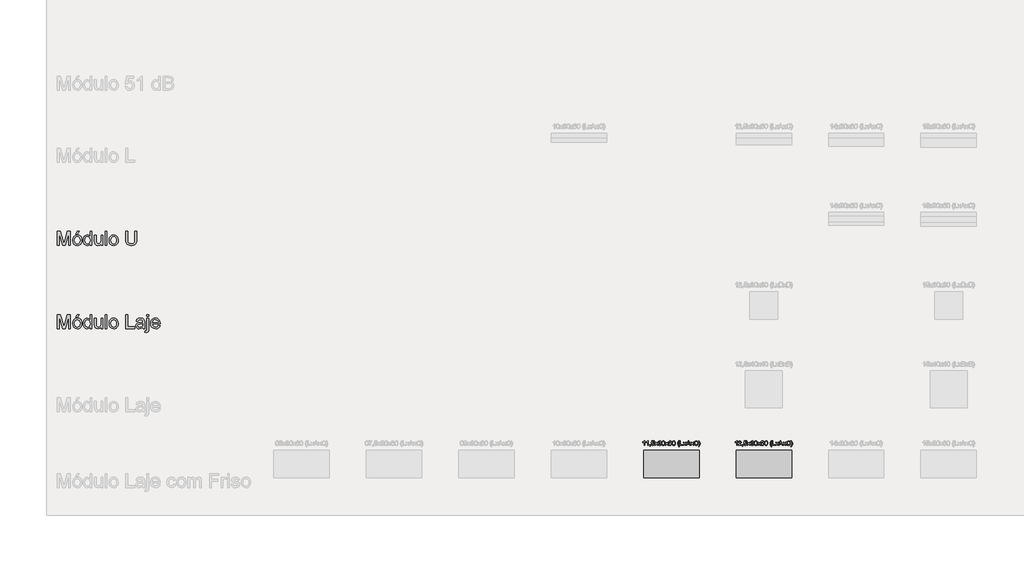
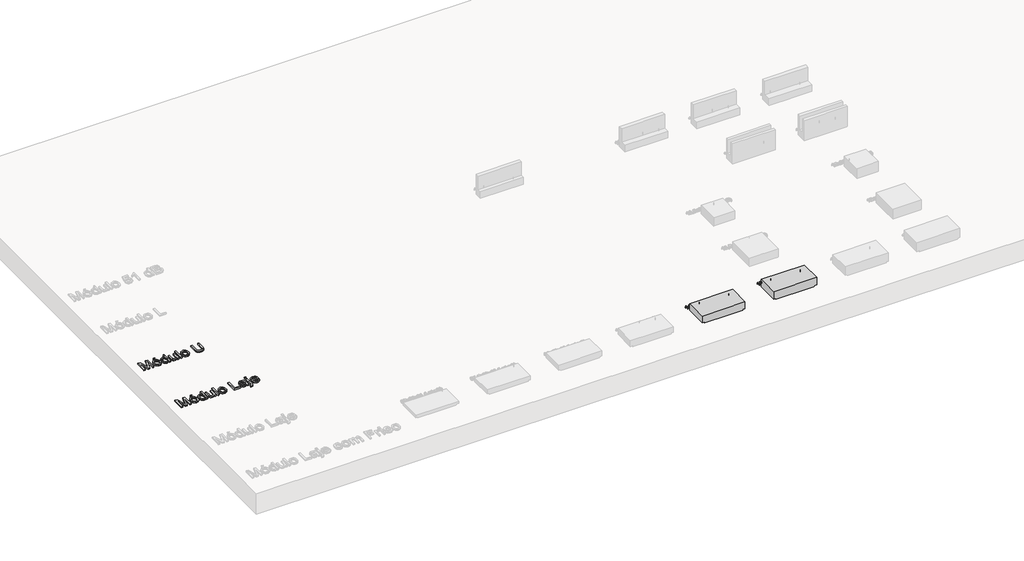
# One storey, part 4 of 26: 6 proxies.
"""IFC4 building model written with IfcOpenShell, lengths in millimetres."""

from ifc_helpers import new_model, si_unit, origin, origin_with_axes, place, context, project, spatial, polyline, outline, extrude, transform, mapped, element, save
from components import generic_models_67b5db59, generic_models_4925fccc

model = new_model("IFC4")

# Units and contexts
model_context = context("Model", 3, world=origin())
ifc_project = project(units=[si_unit("LENGTHUNIT", "METRE", prefix="MILLI")], contexts=[model_context])

# Site, building, storey
site = spatial("IfcSite", under=ifc_project)
building = spatial("IfcBuilding", under=site)
storey = spatial("IfcBuildingStorey", under=building, Name="Catálogo Celucon", Elevation=0.0)

# Proxies
placement = place(None, origin())
element("IfcBuildingElementProxy", 1, Name="Legenda Tabela de Módulos", ObjectType="Legenda Tabela de Módulos", at=placement, inside=storey, context=model_context, shape_type="SweptSolid", body=[
    extrude(outline(polyline([(-16139.397214, -2434.6760122), (-16139.397214, -2283.9915469), (-16106.9868102, -2283.9915469), (-16076.158299, -2390.199079), (-16069.9410933, -2412.3823633), (-16063.2088528, -2388.359669), (-16032.8953764, -2283.9915469), (-16000.4849726, -2283.9915469), (-16000.4849726, -2434.6760122), (-16019.3205308, -2434.6760122), (-16019.3205308, -2302.8271051), (-16057.1755881, -2434.6760122), (-16082.7065985, -2434.6760122), (-16120.5616558, -2302.8271051), (-16120.5616558, -2434.6760122), (-16139.397214, -2434.6760122)])), origin_with_axes(), (0.0, 0.0, 1.0), 20.0),
    extrude(outline(polyline([(-15974.5860802, -2379.3465601), (-15970.5117871, -2352.6659184), (-15958.2889078, -2333.9131337), (-15943.1873519, -2324.7252809), (-15925.1059518, -2321.6626633), (-15905.318499, -2325.392067), (-15889.5133688, -2336.5802782), (-15879.1528921, -2354.34438), (-15875.6993999, -2377.8014557), (-15877.2261101, -2396.8301519), (-15881.806241, -2411.3155055), (-15889.3064352, -2422.1634258), (-15899.5933354, -2430.2798223), (-15911.8116162, -2435.3427983), (-15925.1059518, -2437.0304569), (-15945.1325279, -2433.3148488), (-15960.919264, -2422.1680243), (-15971.1693761, -2404.031442), (-15974.5860802, -2379.3465601)]), holes=[polyline([(-15955.750522, -2379.3097719), (-15953.5708212, -2396.3565038), (-15947.0317187, -2408.5012082), (-15937.1908754, -2415.7714761), (-15925.1059518, -2418.1948988), (-15913.0762106, -2415.7576806), (-15903.2537613, -2408.4460259), (-15896.7146588, -2396.1403732), (-15894.534958, -2378.7211607), (-15896.7284544, -2362.1710694), (-15903.3089436, -2350.191912), (-15913.1451884, -2342.921644), (-15925.1059518, -2340.4982214), (-15937.1908754, -2342.912447), (-15947.0317187, -2350.1551238), (-15953.5708212, -2362.272237), (-15955.750522, -2379.3097719)])]), origin_with_axes(), (0.0, 0.0, 1.0), 20.0),
    extrude(outline(polyline([(-15939.2694086, -2312.2448842), (-15925.14274, -2283.9915469), (-15901.5982923, -2283.9915469), (-15925.14274, -2312.2448842), (-15939.2694086, -2312.2448842)])), origin_with_axes(), (0.0, 0.0, 1.0), 20.0),
    extrude(outline(polyline([(-15786.2304986, -2434.6760122), (-15786.2304986, -2416.9073118), (-15798.6925012, -2431.9996707), (-15815.9185756, -2437.0304569), (-15828.0954697, -2435.2094411), (-15839.2422941, -2429.7463934), (-15848.6784673, -2421.0229916), (-15855.7234075, -2409.4209132), (-15860.1104003, -2395.4092077), (-15861.5727312, -2379.4569247), (-15856.18326, -2349.4745421), (-15849.4510195, -2337.5827566), (-15840.0332404, -2328.8363622), (-15828.6426942, -2323.456088), (-15815.992152, -2321.6626633), (-15798.6281219, -2326.7946171), (-15786.2304986, -2340.1303394), (-15786.2304986, -2283.9915469), (-15767.3949405, -2283.9915469), (-15767.3949405, -2434.6760122), (-15786.2304986, -2434.6760122)]), holes=[polyline([(-15842.7371731, -2379.3833483), (-15840.6126546, -2396.4208832), (-15834.239099, -2408.5379964), (-15824.9776698, -2415.7806732), (-15814.1895303, -2418.1948988), (-15803.4059893, -2415.8910378), (-15794.3790848, -2408.9794548), (-15788.2676452, -2397.3313911), (-15786.2304986, -2380.8180881), (-15788.3044334, -2362.7642792), (-15794.5262376, -2350.2470943), (-15803.7830683, -2342.9354396), (-15814.9620825, -2340.4982214), (-15825.8605866, -2342.8388706), (-15834.790922, -2349.8608182), (-15840.7506103, -2361.9227491), (-15842.7371731, -2379.3833483)])]), origin_with_axes(), (0.0, 0.0, 1.0), 20.0),
    extrude(outline(polyline([(-15668.5082602, -2434.6760122), (-15668.5082602, -2415.656513), (-15683.2603282, -2431.686971), (-15702.5005565, -2437.0304569), (-15720.2140746, -2433.2780606), (-15732.4277568, -2423.8602815), (-15738.0379573, -2409.9911303), (-15739.1416032, -2392.4799473), (-15739.1416032, -2324.017108), (-15720.3060451, -2324.017108), (-15720.3060451, -2383.6139912), (-15719.1656109, -2402.8174314), (-15711.7160005, -2414.0930145), (-15697.6813024, -2418.1948988), (-15681.9543471, -2414.001044), (-15671.5616807, -2402.5783081), (-15668.5082602, -2381.5906403), (-15668.5082602, -2324.017108), (-15649.672702, -2324.017108), (-15649.672702, -2434.6760122), (-15668.5082602, -2434.6760122)])), origin_with_axes(), (0.0, 0.0, 1.0), 20.0),
    extrude(outline(polyline([(-15623.7738096, -2434.6760122), (-15623.7738096, -2283.9915469), (-15604.9382514, -2283.9915469), (-15604.9382514, -2434.6760122), (-15623.7738096, -2434.6760122)])), origin_with_axes(), (0.0, 0.0, 1.0), 20.0),
    extrude(outline(polyline([(-15581.3938037, -2379.3465601), (-15577.3195106, -2352.6659184), (-15565.0966313, -2333.9131337), (-15549.9950754, -2324.7252809), (-15531.9136754, -2321.6626633), (-15512.1262226, -2325.392067), (-15496.3210923, -2336.5802782), (-15485.9606156, -2354.34438), (-15482.5071234, -2377.8014557), (-15484.0338337, -2396.8301519), (-15488.6139645, -2411.3155055), (-15496.1141587, -2422.1634258), (-15506.401059, -2430.2798223), (-15518.6193398, -2435.3427983), (-15531.9136754, -2437.0304569), (-15551.9402515, -2433.3148488), (-15567.7269876, -2422.1680243), (-15577.9770997, -2404.031442), (-15581.3938037, -2379.3465601)]), holes=[polyline([(-15562.5582456, -2379.3097719), (-15560.3785447, -2396.3565038), (-15553.8394423, -2408.5012082), (-15543.9985989, -2415.7714761), (-15531.9136754, -2418.1948988), (-15519.8839341, -2415.7576806), (-15510.0614849, -2408.4460259), (-15503.5223824, -2396.1403732), (-15501.3426816, -2378.7211607), (-15503.536178, -2362.1710694), (-15510.1166672, -2350.191912), (-15519.952912, -2342.921644), (-15531.9136754, -2340.4982214), (-15543.9985989, -2342.912447), (-15553.8394423, -2350.1551238), (-15560.3785447, -2362.272237), (-15562.5582456, -2379.3097719)])]), origin_with_axes(), (0.0, 0.0, 1.0), 20.0),
    extrude(outline(polyline([(-15301.2148762, -2283.9915469), (-15282.379318, -2283.9915469), (-15282.379318, -2370.9220624), (-15283.657708, -2391.2797323), (-15287.4928778, -2406.9561038), (-15294.6573796, -2419.0502244), (-15305.9237657, -2428.6611415), (-15321.3196272, -2434.9381281), (-15340.8725553, -2437.0304569), (-15359.9978205, -2435.2094411), (-15375.2879159, -2429.7463934), (-15386.7474401, -2420.8298536), (-15394.3809915, -2408.648361), (-15398.6714152, -2392.3098019), (-15400.1015565, -2370.9220624), (-15400.1015565, -2283.9915469), (-15381.2659983, -2283.9915469), (-15381.2659983, -2370.2598748), (-15377.5503902, -2398.9730645), (-15372.5012098, -2407.1354463), (-15364.784885, -2413.1917037), (-15342.6383888, -2418.1948988), (-15323.4809339, -2415.7208924), (-15310.7430199, -2408.2988731), (-15303.5969121, -2393.8411107), (-15301.2148762, -2370.2598748), (-15301.2148762, -2283.9915469)])), origin_with_axes(), (0.0, 0.0, 1.0), 20.0),
])
element("IfcBuildingElementProxy", 2, Name="Legenda Tabela de Módulos", ObjectType="Legenda Tabela de Módulos", at=placement, inside=storey, context=model_context, shape_type="SweptSolid", body=[
    extrude(outline(polyline([(-16139.397214, -3334.6760122), (-16139.397214, -3183.9915469), (-16106.9868102, -3183.9915469), (-16076.158299, -3290.199079), (-16069.9410933, -3312.3823633), (-16063.2088528, -3288.359669), (-16032.8953764, -3183.9915469), (-16000.4849726, -3183.9915469), (-16000.4849726, -3334.6760122), (-16019.3205308, -3334.6760122), (-16019.3205308, -3202.8271051), (-16057.1755881, -3334.6760122), (-16082.7065985, -3334.6760122), (-16120.5616558, -3202.8271051), (-16120.5616558, -3334.6760122), (-16139.397214, -3334.6760122)])), origin_with_axes(), (0.0, 0.0, 1.0), 20.0),
    extrude(outline(polyline([(-15974.5860802, -3279.3465601), (-15970.5117871, -3252.6659184), (-15958.2889078, -3233.9131337), (-15943.1873519, -3224.7252809), (-15925.1059518, -3221.6626633), (-15905.318499, -3225.392067), (-15889.5133688, -3236.5802782), (-15879.1528921, -3254.34438), (-15875.6993999, -3277.8014557), (-15877.2261101, -3296.8301519), (-15881.806241, -3311.3155055), (-15889.3064352, -3322.1634258), (-15899.5933354, -3330.2798223), (-15911.8116162, -3335.3427983), (-15925.1059518, -3337.0304569), (-15945.1325279, -3333.3148488), (-15960.919264, -3322.1680243), (-15971.1693761, -3304.031442), (-15974.5860802, -3279.3465601)]), holes=[polyline([(-15955.750522, -3279.3097719), (-15953.5708212, -3296.3565038), (-15947.0317187, -3308.5012082), (-15937.1908754, -3315.7714761), (-15925.1059518, -3318.1948988), (-15913.0762106, -3315.7576806), (-15903.2537613, -3308.4460259), (-15896.7146588, -3296.1403732), (-15894.534958, -3278.7211607), (-15896.7284544, -3262.1710694), (-15903.3089436, -3250.191912), (-15913.1451884, -3242.921644), (-15925.1059518, -3240.4982214), (-15937.1908754, -3242.912447), (-15947.0317187, -3250.1551238), (-15953.5708212, -3262.272237), (-15955.750522, -3279.3097719)])]), origin_with_axes(), (0.0, 0.0, 1.0), 20.0),
    extrude(outline(polyline([(-15939.2694086, -3212.2448842), (-15925.14274, -3183.9915469), (-15901.5982923, -3183.9915469), (-15925.14274, -3212.2448842), (-15939.2694086, -3212.2448842)])), origin_with_axes(), (0.0, 0.0, 1.0), 20.0),
    extrude(outline(polyline([(-15786.2304986, -3334.6760122), (-15786.2304986, -3316.9073118), (-15798.6925012, -3331.9996707), (-15815.9185756, -3337.0304569), (-15828.0954697, -3335.2094411), (-15839.2422941, -3329.7463934), (-15848.6784673, -3321.0229916), (-15855.7234075, -3309.4209132), (-15860.1104003, -3295.4092077), (-15861.5727312, -3279.4569247), (-15856.18326, -3249.4745421), (-15849.4510195, -3237.5827566), (-15840.0332404, -3228.8363622), (-15828.6426942, -3223.456088), (-15815.992152, -3221.6626633), (-15798.6281219, -3226.7946171), (-15786.2304986, -3240.1303394), (-15786.2304986, -3183.9915469), (-15767.3949405, -3183.9915469), (-15767.3949405, -3334.6760122), (-15786.2304986, -3334.6760122)]), holes=[polyline([(-15842.7371731, -3279.3833483), (-15840.6126546, -3296.4208832), (-15834.239099, -3308.5379964), (-15824.9776698, -3315.7806732), (-15814.1895303, -3318.1948988), (-15803.4059893, -3315.8910378), (-15794.3790848, -3308.9794548), (-15788.2676452, -3297.3313911), (-15786.2304986, -3280.8180881), (-15788.3044334, -3262.7642792), (-15794.5262376, -3250.2470943), (-15803.7830683, -3242.9354396), (-15814.9620825, -3240.4982214), (-15825.8605866, -3242.8388706), (-15834.790922, -3249.8608182), (-15840.7506103, -3261.9227491), (-15842.7371731, -3279.3833483)])]), origin_with_axes(), (0.0, 0.0, 1.0), 20.0),
    extrude(outline(polyline([(-15668.5082602, -3334.6760122), (-15668.5082602, -3315.656513), (-15683.2603282, -3331.686971), (-15702.5005565, -3337.0304569), (-15720.2140746, -3333.2780606), (-15732.4277568, -3323.8602815), (-15738.0379573, -3309.9911303), (-15739.1416032, -3292.4799473), (-15739.1416032, -3224.017108), (-15720.3060451, -3224.017108), (-15720.3060451, -3283.6139912), (-15719.1656109, -3302.8174314), (-15711.7160005, -3314.0930145), (-15697.6813024, -3318.1948988), (-15681.9543471, -3314.001044), (-15671.5616807, -3302.5783081), (-15668.5082602, -3281.5906403), (-15668.5082602, -3224.017108), (-15649.672702, -3224.017108), (-15649.672702, -3334.6760122), (-15668.5082602, -3334.6760122)])), origin_with_axes(), (0.0, 0.0, 1.0), 20.0),
    extrude(outline(polyline([(-15623.7738096, -3334.6760122), (-15623.7738096, -3183.9915469), (-15604.9382514, -3183.9915469), (-15604.9382514, -3334.6760122), (-15623.7738096, -3334.6760122)])), origin_with_axes(), (0.0, 0.0, 1.0), 20.0),
    extrude(outline(polyline([(-15581.3938037, -3279.3465601), (-15577.3195106, -3252.6659184), (-15565.0966313, -3233.9131337), (-15549.9950754, -3224.7252809), (-15531.9136754, -3221.6626633), (-15512.1262226, -3225.392067), (-15496.3210923, -3236.5802782), (-15485.9606156, -3254.34438), (-15482.5071234, -3277.8014557), (-15484.0338337, -3296.8301519), (-15488.6139645, -3311.3155055), (-15496.1141587, -3322.1634258), (-15506.401059, -3330.2798223), (-15518.6193398, -3335.3427983), (-15531.9136754, -3337.0304569), (-15551.9402515, -3333.3148488), (-15567.7269876, -3322.1680243), (-15577.9770997, -3304.031442), (-15581.3938037, -3279.3465601)]), holes=[polyline([(-15562.5582456, -3279.3097719), (-15560.3785447, -3296.3565038), (-15553.8394423, -3308.5012082), (-15543.9985989, -3315.7714761), (-15531.9136754, -3318.1948988), (-15519.8839341, -3315.7576806), (-15510.0614849, -3308.4460259), (-15503.5223824, -3296.1403732), (-15501.3426816, -3278.7211607), (-15503.536178, -3262.1710694), (-15510.1166672, -3250.191912), (-15519.952912, -3242.921644), (-15531.9136754, -3240.4982214), (-15543.9985989, -3242.912447), (-15553.8394423, -3250.1551238), (-15560.3785447, -3262.272237), (-15562.5582456, -3279.3097719)])]), origin_with_axes(), (0.0, 0.0, 1.0), 20.0),
    extrude(outline(polyline([(-15400.1015565, -3334.6760122), (-15400.1015565, -3183.9915469), (-15381.2659983, -3183.9915469), (-15381.2659983, -3315.840454), (-15305.9237657, -3315.840454), (-15305.9237657, -3334.6760122), (-15400.1015565, -3334.6760122)])), origin_with_axes(), (0.0, 0.0, 1.0), 20.0),
    extrude(outline(polyline([(-15171.7204139, -3202.8271051), (-15171.7204139, -3183.9915469), (-15152.8848557, -3183.9915469), (-15152.8848557, -3202.8271051), (-15171.7204139, -3202.8271051)])), origin_with_axes(), (0.0, 0.0, 1.0), 20.0),
    extrude(outline(polyline([(-15195.4488026, -3377.1295944), (-15191.475677, -3359.2137412), (-15182.8304501, -3360.5749046), (-15174.4611348, -3356.8409024), (-15171.7204139, -3338.1708911), (-15171.7204139, -3224.017108), (-15152.8848557, -3224.017108), (-15152.8848557, -3340.5989123), (-15154.218428, -3357.8893661), (-15158.2191447, -3368.9994023), (-15167.2322535, -3376.8076977), (-15180.7335228, -3379.4104628), (-15195.4488026, -3377.1295944)])), origin_with_axes(), (0.0, 0.0, 1.0), 20.0),
    extrude(outline(polyline([(-15216.4548645, -3320.5493436), (-15234.7202056, -3333.3148488), (-15254.898533, -3337.0304569), (-15270.6392839, -3334.7955738), (-15282.2505593, -3328.0909245), (-15289.4104627, -3317.9097902), (-15291.7970971, -3305.2454526), (-15288.1918536, -3290.3462318), (-15278.7188922, -3279.5305011), (-15265.5303227, -3273.3500836), (-15249.2331503, -3270.5173922), (-15216.5652291, -3264.0426691), (-15216.4548645, -3259.8488144), (-15217.7516485, -3251.4427108), (-15221.6420006, -3245.9428749), (-15230.3424098, -3241.8593848), (-15242.4641216, -3240.4982214), (-15261.5204089, -3244.1218591), (-15270.6070942, -3256.9793348), (-15289.4426523, -3254.62489), (-15281.2940662, -3236.2307903), (-15264.8865292, -3225.4518478), (-15240.0361004, -3221.6626633), (-15217.2090226, -3225.0103894), (-15204.3147587, -3233.416493), (-15198.5390113, -3246.2003923), (-15197.6193063, -3262.6815057), (-15197.6193063, -3286.1155888), (-15196.6628132, -3318.8386923), (-15192.9104168, -3334.6760122), (-15211.745975, -3334.6760122), (-15216.4548645, -3320.5493436)]), holes=[polyline([(-15216.4548645, -3282.8782272), (-15246.8419173, -3288.6539746), (-15263.0471192, -3291.7073951), (-15270.386365, -3296.6738021), (-15272.961539, -3303.9210774), (-15267.3513385, -3314.1114086), (-15250.8886193, -3318.1948988), (-15231.8323319, -3313.6883443), (-15219.5450733, -3302.7806432), (-15216.5652291, -3288.2125162), (-15216.4548645, -3282.8782272)])]), origin_with_axes(), (0.0, 0.0, 1.0), 20.0),
    extrude(outline(polyline([(-15047.1555703, -3301.7137854), (-15028.6878942, -3304.0682302), (-15035.3419598, -3317.9833666), (-15045.9599538, -3328.3852301), (-15060.3027531, -3334.8691502), (-15078.1312343, -3337.0304569), (-15100.2317452, -3333.3010532), (-15117.2370904, -3322.112842), (-15128.0804122, -3304.1923903), (-15131.6948528, -3280.2662651), (-15128.043624, -3255.535398), (-15117.0899376, -3237.0401307), (-15100.3145186, -3225.5070301), (-15079.1980921, -3221.6626633), (-15058.7392546, -3225.4978331), (-15042.3914985, -3237.0033425), (-15031.6723369, -3255.4618216), (-15028.099283, -3280.1559005), (-15028.2096476, -3285.232672), (-15112.8592947, -3285.232672), (-15109.5989405, -3299.3317495), (-15102.0251699, -3309.6968247), (-15091.0944761, -3316.0703803), (-15077.7633523, -3318.1948988), (-15059.2956762, -3314.2585614), (-15047.1555703, -3301.7137854)]), holes=[polyline([(-15112.8592947, -3266.3971139), (-15046.9348411, -3266.3971139), (-15049.4824239, -3256.4459059), (-15054.476422, -3249.3273893), (-15065.4576996, -3242.7055134), (-15079.2716685, -3240.4982214), (-15091.9681959, -3242.2594565), (-15102.4666283, -3247.5431616), (-15109.7644874, -3255.7791198), (-15112.8592947, -3266.3971139)])]), origin_with_axes(), (0.0, 0.0, 1.0), 20.0),
])
element("IfcBuildingElementProxy", 3, Name="Dimensões", ObjectType="Dimensões", at=placement, inside=storey, context=model_context, shape_type="SweptSolid", body=[
    extrude(outline(polyline([(-9787.0646748, -4599.6760122), (-9793.3431942, -4599.6760122), (-9793.3431942, -4560.5333679), (-9799.2906197, -4564.7701422), (-9805.9002329, -4567.9400587), (-9805.9002329, -4562.0048959), (-9796.6970517, -4556.1310467), (-9791.1113767, -4549.4478571), (-9787.0646748, -4549.4478571), (-9787.0646748, -4599.6760122)])), origin_with_axes(), (0.0, 0.0, 1.0), 20.0),
    extrude(outline(polyline([(-9748.6087435, -4599.6760122), (-9754.8872629, -4599.6760122), (-9754.8872629, -4560.5333679), (-9760.8346885, -4564.7701422), (-9767.4443017, -4567.9400587), (-9767.4443017, -4562.0048959), (-9758.2411204, -4556.1310467), (-9752.6554455, -4549.4478571), (-9748.6087435, -4549.4478571), (-9748.6087435, -4599.6760122)])), origin_with_axes(), (0.0, 0.0, 1.0), 20.0),
    extrude(outline(polyline([(-9730.5580003, -4599.6760122), (-9730.5580003, -4593.3974928), (-9724.2794809, -4593.3974928), (-9724.2794809, -4599.6760122), (-9725.4076524, -4606.095553), (-9728.9883705, -4609.8786062), (-9730.5580003, -4607.5241614), (-9728.2526065, -4604.8140974), (-9727.4310034, -4599.6760122), (-9730.5580003, -4599.6760122)])), origin_with_axes(), (0.0, 0.0, 1.0), 20.0),
    extrude(outline(polyline([(-9714.0768869, -4586.3341585), (-9707.7983675, -4585.5493436), (-9704.6345824, -4592.0179353), (-9698.0740201, -4594.1823077), (-9690.2013454, -4591.1718067), (-9687.3931795, -4583.1826361), (-9690.0235358, -4575.7268943), (-9697.9759183, -4572.9923048), (-9703.4880168, -4574.083688), (-9707.0135526, -4576.9163794), (-9713.292072, -4576.1315645), (-9707.7983675, -4550.232672), (-9683.4691049, -4550.232672), (-9683.4691049, -4556.5111914), (-9702.721596, -4556.5111914), (-9705.4071346, -4570.3435544), (-9696.2223474, -4566.7137854), (-9685.4863245, -4571.2142085), (-9681.1146602, -4582.7902286), (-9685.0509975, -4594.4398251), (-9690.7041175, -4598.9555766), (-9698.0985456, -4600.4608271), (-9709.177925, -4596.5919348), (-9714.0768869, -4586.3341585)])), origin_with_axes(), (0.0, 0.0, 1.0), 20.0),
    extrude(outline(polyline([(-9677.9754005, -4599.6760122), (-9664.5599704, -4581.1347596), (-9677.1905855, -4562.7897108), (-9669.6367419, -4562.7897108), (-9663.5421635, -4571.6188787), (-9660.6972094, -4575.7882079), (-9658.2324001, -4572.3791681), (-9651.2916931, -4562.7897108), (-9643.7378494, -4562.7897108), (-9657.0061267, -4581.1347596), (-9644.2283588, -4599.6760122), (-9651.7822024, -4599.6760122), (-9659.4709361, -4588.5291877), (-9660.8811504, -4586.493574), (-9670.4215568, -4599.6760122), (-9677.9754005, -4599.6760122)])), origin_with_axes(), (0.0, 0.0, 1.0), 20.0),
    extrude(outline(polyline([(-9640.3042842, -4586.3341585), (-9634.0257648, -4585.5493436), (-9630.5615427, -4592.1589567), (-9624.0806882, -4594.1823077), (-9616.4532681, -4591.3986673), (-9613.6205768, -4584.5070112), (-9616.4287427, -4578.013894), (-9623.5656534, -4575.4448514), (-9627.9679746, -4576.1315645), (-9627.2689988, -4569.8530451), (-9619.1388067, -4568.1239997), (-9615.9750215, -4562.5812443), (-9618.2681526, -4557.6700197), (-9624.17879, -4555.7263765), (-9630.1630038, -4557.6884138), (-9633.2409499, -4563.5745257), (-9639.5194692, -4562.7897108), (-9634.381384, -4552.942736), (-9624.3995192, -4549.4478571), (-9616.8272815, -4551.1707711), (-9611.5297808, -4555.8796606), (-9609.6965022, -4562.2133623), (-9611.4378103, -4568.0013724), (-9616.5881582, -4572.1584389), (-9609.7455531, -4576.4503955), (-9607.3420574, -4584.6173758), (-9612.1490488, -4595.8500394), (-9624.3014174, -4600.4608271), (-9635.3133518, -4596.5244897), (-9640.3042842, -4586.3341585)])), origin_with_axes(), (0.0, 0.0, 1.0), 20.0),
    extrude(outline(polyline([(-9601.8483529, -4574.9666048), (-9600.0028116, -4560.5149738), (-9594.5213699, -4552.1824466), (-9585.3672395, -4549.4478571), (-9578.0341251, -4551.0665379), (-9572.9696163, -4555.7325078), (-9570.0265603, -4563.1637241), (-9568.8861262, -4574.9666048), (-9570.7132734, -4589.3569222), (-9576.176321, -4597.7078435), (-9585.3672395, -4600.4608271), (-9596.8451578, -4595.6783612), (-9600.5975541, -4587.1833528), (-9601.8483529, -4574.9666048)]), holes=[polyline([(-9595.5698335, -4574.9543421), (-9592.6267776, -4590.5464073), (-9585.3672395, -4594.1823077), (-9578.1077015, -4590.5341446), (-9575.1646455, -4574.9543421), (-9578.0095996, -4559.5400865), (-9585.4408159, -4555.7263765), (-9592.5286757, -4559.0863654), (-9595.5698335, -4574.9543421)])]), origin_with_axes(), (0.0, 0.0, 1.0), 20.0),
    extrude(outline(polyline([(-9565.7468665, -4599.6760122), (-9552.3314364, -4581.1347596), (-9564.9620515, -4562.7897108), (-9557.4082079, -4562.7897108), (-9551.3136295, -4571.6188787), (-9548.4686754, -4575.7882079), (-9546.0038661, -4572.3791681), (-9539.0631591, -4562.7897108), (-9531.5093155, -4562.7897108), (-9544.7775927, -4581.1347596), (-9531.9998248, -4599.6760122), (-9539.5536684, -4599.6760122), (-9547.2424021, -4588.5291877), (-9548.6526164, -4586.493574), (-9558.1930228, -4599.6760122), (-9565.7468665, -4599.6760122)])), origin_with_axes(), (0.0, 0.0, 1.0), 20.0),
    extrude(outline(polyline([(-9495.8983383, -4562.7897108), (-9502.1768577, -4563.5745257), (-9504.5558279, -4558.3383386), (-9510.8466101, -4555.7263765), (-9516.5119928, -4557.2469554), (-9520.797818, -4562.9552577), (-9522.5820457, -4574.1450017), (-9517.0454217, -4569.1356752), (-9510.1844225, -4567.4986003), (-9499.5158446, -4571.9744979), (-9495.1135234, -4583.5382553), (-9497.1859253, -4592.2018763), (-9502.8880962, -4598.3332429), (-9511.1163902, -4600.4608271), (-9523.9125523, -4594.8199698), (-9527.6235619, -4587.3519653), (-9528.8605651, -4576.2296663), (-9527.487139, -4563.7247442), (-9523.3668606, -4555.1745535), (-9517.7413318, -4550.8795312), (-9510.4542026, -4549.4478571), (-9500.5336515, -4552.991787), (-9495.8983383, -4562.7897108)]), holes=[polyline([(-9522.5820457, -4583.4401534), (-9521.1289118, -4588.8786756), (-9517.2661509, -4592.8272757), (-9511.6068995, -4594.1823077), (-9504.20634, -4591.3741418), (-9501.3920428, -4583.7467218), (-9504.1695518, -4576.4442642), (-9511.8644169, -4573.7771197), (-9519.4611801, -4576.4442642), (-9522.5820457, -4583.4401534)])]), origin_with_axes(), (0.0, 0.0, 1.0), 20.0),
    extrude(outline(polyline([(-9489.6198189, -4574.9666048), (-9487.7742776, -4560.5149738), (-9482.2928359, -4552.1824466), (-9473.1387056, -4549.4478571), (-9465.8055911, -4551.0665379), (-9460.7410823, -4555.7325078), (-9457.7980264, -4563.1637241), (-9456.6575922, -4574.9666048), (-9458.4847394, -4589.3569222), (-9463.947787, -4597.7078435), (-9473.1387056, -4600.4608271), (-9484.6166238, -4595.6783612), (-9488.3690202, -4587.1833528), (-9489.6198189, -4574.9666048)]), holes=[polyline([(-9483.3412996, -4574.9543421), (-9480.3982436, -4590.5464073), (-9473.1387056, -4594.1823077), (-9465.8791675, -4590.5341446), (-9462.9361116, -4574.9543421), (-9465.7810656, -4559.5400865), (-9473.212282, -4555.7263765), (-9480.3001417, -4559.0863654), (-9483.3412996, -4574.9543421)])]), origin_with_axes(), (0.0, 0.0, 1.0), 20.0),
    extrude(outline(polyline([(-9417.416846, -4613.8026808), (-9426.331853, -4599.0751382), (-9429.9738848, -4581.5884807), (-9427.251558, -4566.3213779), (-9417.416846, -4549.4478571), (-9412.7079565, -4549.4478571), (-9418.5818057, -4559.3929337), (-9422.1134728, -4569.031442), (-9423.6953654, -4581.6252689), (-9420.9485132, -4597.7201062), (-9412.7079565, -4613.8026808), (-9417.416846, -4613.8026808)])), origin_with_axes(), (0.0, 0.0, 1.0), 20.0),
    extrude(outline(polyline([(-9405.6446222, -4599.6760122), (-9405.6446222, -4549.4478571), (-9399.3661028, -4549.4478571), (-9399.3661028, -4593.3974928), (-9374.2520252, -4593.3974928), (-9374.2520252, -4599.6760122), (-9405.6446222, -4599.6760122)])), origin_with_axes(), (0.0, 0.0, 1.0), 20.0),
    extrude(outline(polyline([(-9337.7213431, -4599.6760122), (-9317.6717744, -4549.4478571), (-9312.3252227, -4549.4478571), (-9292.275654, -4599.6760122), (-9298.9097926, -4599.6760122), (-9304.6610145, -4583.9797137), (-9325.3482454, -4583.9797137), (-9331.0872045, -4599.6760122), (-9337.7213431, -4599.6760122)]), holes=[polyline([(-9323.0428515, -4577.7011943), (-9306.9541456, -4577.7011943), (-9311.4790941, -4565.352622), (-9314.9984986, -4555.7263765), (-9318.1254955, -4564.2735015), (-9323.0428515, -4577.7011943)])]), origin_with_axes(), (0.0, 0.0, 1.0), 20.0),
    extrude(outline(polyline([(-9371.8975805, -4599.6760122), (-9358.4821504, -4581.1347596), (-9371.1127656, -4562.7897108), (-9363.5589219, -4562.7897108), (-9357.4643435, -4571.6188787), (-9354.6193894, -4575.7882079), (-9352.1545801, -4572.3791681), (-9345.2138731, -4562.7897108), (-9337.6600295, -4562.7897108), (-9350.9283068, -4581.1347596), (-9338.1505388, -4599.6760122), (-9345.7043824, -4599.6760122), (-9353.3931161, -4588.5291877), (-9354.8033304, -4586.493574), (-9364.3437368, -4599.6760122), (-9371.8975805, -4599.6760122)])), origin_with_axes(), (0.0, 0.0, 1.0), 20.0),
    extrude(outline(polyline([(-9290.2768285, -4599.6760122), (-9276.8613984, -4581.1347596), (-9289.4920136, -4562.7897108), (-9281.9381699, -4562.7897108), (-9275.8435915, -4571.6188787), (-9272.9986374, -4575.7882079), (-9270.5338281, -4572.3791681), (-9263.5931211, -4562.7897108), (-9256.0392775, -4562.7897108), (-9269.3075548, -4581.1347596), (-9256.5297868, -4599.6760122), (-9264.0836304, -4599.6760122), (-9271.7723641, -4588.5291877), (-9273.1825784, -4586.493574), (-9282.7229848, -4599.6760122), (-9290.2768285, -4599.6760122)])), origin_with_axes(), (0.0, 0.0, 1.0), 20.0),
    extrude(outline(polyline([(-9214.9345959, -4581.8214727), (-9208.6560765, -4583.4401534), (-9216.0995555, -4596.1014255), (-9229.2452055, -4600.4608271), (-9242.3111477, -4597.1621519), (-9249.9753559, -4587.6094827), (-9252.6057122, -4574.1817899), (-9249.6319994, -4560.5333679), (-9241.1768449, -4551.6858059), (-9229.1103154, -4548.6630422), (-9216.5348825, -4552.5748541), (-9209.4408914, -4563.5867884), (-9215.7194108, -4565.0828419), (-9220.8697587, -4557.3634514), (-9229.3555701, -4554.9415616), (-9239.1780194, -4557.6271001), (-9244.7269061, -4564.8375872), (-9246.3271928, -4574.1695272), (-9244.4326005, -4584.9852578), (-9238.5342259, -4591.895308), (-9229.8706049, -4594.1823077), (-9220.2627534, -4591.0675735), (-9214.9345959, -4581.8214727)])), origin_with_axes(), (0.0, 0.0, 1.0), 20.0),
    extrude(outline(polyline([(-9199.2382974, -4613.8026808), (-9203.9471869, -4613.8026808), (-9195.7066303, -4597.7201062), (-9192.959778, -4581.6252689), (-9194.5416706, -4569.1418066), (-9198.0365496, -4559.4910356), (-9203.9471869, -4549.4478571), (-9199.2382974, -4549.4478571), (-9189.4035854, -4566.3213779), (-9186.6812586, -4581.5884807), (-9190.3416845, -4599.0751382), (-9199.2382974, -4613.8026808)])), origin_with_axes(), (0.0, 0.0, 1.0), 20.0),
])
element("IfcBuildingElementProxy", 4, Name="Dimensões", ObjectType="Dimensões", at=placement, inside=storey, context=model_context, shape_type="SweptSolid", body=[
    extrude(outline(polyline([(-8787.0646748, -4599.6760122), (-8793.3431942, -4599.6760122), (-8793.3431942, -4560.5333679), (-8799.2906197, -4564.7701422), (-8805.9002329, -4567.9400587), (-8805.9002329, -4562.0048959), (-8796.6970517, -4556.1310467), (-8791.1113767, -4549.4478571), (-8787.0646748, -4549.4478571), (-8787.0646748, -4599.6760122)])), origin_with_axes(), (0.0, 0.0, 1.0), 20.0),
    extrude(outline(polyline([(-8739.9757794, -4593.3974928), (-8739.9757794, -4599.6760122), (-8772.9380062, -4599.6760122), (-8772.2635558, -4595.3472674), (-8768.4498458, -4588.6824719), (-8760.5894338, -4581.4045397), (-8749.7491777, -4570.9444283), (-8747.0391137, -4563.8320431), (-8749.5958936, -4558.0746899), (-8756.2729518, -4555.7263765), (-8763.2320528, -4558.0195076), (-8765.8746718, -4564.3593406), (-8772.1531912, -4563.5745257), (-8767.3400685, -4553.0653634), (-8756.1380617, -4549.4478571), (-8744.8992668, -4553.4700336), (-8740.7605943, -4563.4518984), (-8741.876503, -4569.4054553), (-8745.5859798, -4575.5613474), (-8754.5806946, -4584.1636547), (-8761.8034444, -4590.2030508), (-8764.6361358, -4593.3974928), (-8739.9757794, -4593.3974928)])), origin_with_axes(), (0.0, 0.0, 1.0), 20.0),
    extrude(outline(polyline([(-8730.5580003, -4599.6760122), (-8730.5580003, -4593.3974928), (-8724.2794809, -4593.3974928), (-8724.2794809, -4599.6760122), (-8725.4076524, -4606.095553), (-8728.9883705, -4609.8786062), (-8730.5580003, -4607.5241614), (-8728.2526065, -4604.8140974), (-8727.4310034, -4599.6760122), (-8730.5580003, -4599.6760122)])), origin_with_axes(), (0.0, 0.0, 1.0), 20.0),
    extrude(outline(polyline([(-8714.0768869, -4586.3341585), (-8707.7983675, -4585.5493436), (-8704.6345824, -4592.0179353), (-8698.0740201, -4594.1823077), (-8690.2013454, -4591.1718067), (-8687.3931795, -4583.1826361), (-8690.0235358, -4575.7268943), (-8697.9759183, -4572.9923048), (-8703.4880168, -4574.083688), (-8707.0135526, -4576.9163794), (-8713.292072, -4576.1315645), (-8707.7983675, -4550.232672), (-8683.4691049, -4550.232672), (-8683.4691049, -4556.5111914), (-8702.721596, -4556.5111914), (-8705.4071346, -4570.3435544), (-8696.2223474, -4566.7137854), (-8685.4863245, -4571.2142085), (-8681.1146602, -4582.7902286), (-8685.0509975, -4594.4398251), (-8690.7041175, -4598.9555766), (-8698.0985456, -4600.4608271), (-8709.177925, -4596.5919348), (-8714.0768869, -4586.3341585)])), origin_with_axes(), (0.0, 0.0, 1.0), 20.0),
    extrude(outline(polyline([(-8677.9754005, -4599.6760122), (-8664.5599704, -4581.1347596), (-8677.1905855, -4562.7897108), (-8669.6367419, -4562.7897108), (-8663.5421635, -4571.6188787), (-8660.6972094, -4575.7882079), (-8658.2324001, -4572.3791681), (-8651.2916931, -4562.7897108), (-8643.7378494, -4562.7897108), (-8657.0061267, -4581.1347596), (-8644.2283588, -4599.6760122), (-8651.7822024, -4599.6760122), (-8659.4709361, -4588.5291877), (-8660.8811504, -4586.493574), (-8670.4215568, -4599.6760122), (-8677.9754005, -4599.6760122)])), origin_with_axes(), (0.0, 0.0, 1.0), 20.0),
    extrude(outline(polyline([(-8640.3042842, -4586.3341585), (-8634.0257648, -4585.5493436), (-8630.5615427, -4592.1589567), (-8624.0806882, -4594.1823077), (-8616.4532681, -4591.3986673), (-8613.6205768, -4584.5070112), (-8616.4287427, -4578.013894), (-8623.5656534, -4575.4448514), (-8627.9679746, -4576.1315645), (-8627.2689988, -4569.8530451), (-8619.1388067, -4568.1239997), (-8615.9750215, -4562.5812443), (-8618.2681526, -4557.6700197), (-8624.17879, -4555.7263765), (-8630.1630038, -4557.6884138), (-8633.2409499, -4563.5745257), (-8639.5194692, -4562.7897108), (-8634.381384, -4552.942736), (-8624.3995192, -4549.4478571), (-8616.8272815, -4551.1707711), (-8611.5297808, -4555.8796606), (-8609.6965022, -4562.2133623), (-8611.4378103, -4568.0013724), (-8616.5881582, -4572.1584389), (-8609.7455531, -4576.4503955), (-8607.3420574, -4584.6173758), (-8612.1490488, -4595.8500394), (-8624.3014174, -4600.4608271), (-8635.3133518, -4596.5244897), (-8640.3042842, -4586.3341585)])), origin_with_axes(), (0.0, 0.0, 1.0), 20.0),
    extrude(outline(polyline([(-8601.8483529, -4574.9666048), (-8600.0028116, -4560.5149738), (-8594.5213699, -4552.1824466), (-8585.3672395, -4549.4478571), (-8578.0341251, -4551.0665379), (-8572.9696163, -4555.7325078), (-8570.0265603, -4563.1637241), (-8568.8861262, -4574.9666048), (-8570.7132734, -4589.3569222), (-8576.176321, -4597.7078435), (-8585.3672395, -4600.4608271), (-8596.8451578, -4595.6783612), (-8600.5975541, -4587.1833528), (-8601.8483529, -4574.9666048)]), holes=[polyline([(-8595.5698335, -4574.9543421), (-8592.6267776, -4590.5464073), (-8585.3672395, -4594.1823077), (-8578.1077015, -4590.5341446), (-8575.1646455, -4574.9543421), (-8578.0095996, -4559.5400865), (-8585.4408159, -4555.7263765), (-8592.5286757, -4559.0863654), (-8595.5698335, -4574.9543421)])]), origin_with_axes(), (0.0, 0.0, 1.0), 20.0),
    extrude(outline(polyline([(-8565.7468665, -4599.6760122), (-8552.3314364, -4581.1347596), (-8564.9620515, -4562.7897108), (-8557.4082079, -4562.7897108), (-8551.3136295, -4571.6188787), (-8548.4686754, -4575.7882079), (-8546.0038661, -4572.3791681), (-8539.0631591, -4562.7897108), (-8531.5093155, -4562.7897108), (-8544.7775927, -4581.1347596), (-8531.9998248, -4599.6760122), (-8539.5536684, -4599.6760122), (-8547.2424021, -4588.5291877), (-8548.6526164, -4586.493574), (-8558.1930228, -4599.6760122), (-8565.7468665, -4599.6760122)])), origin_with_axes(), (0.0, 0.0, 1.0), 20.0),
    extrude(outline(polyline([(-8495.8983383, -4562.7897108), (-8502.1768577, -4563.5745257), (-8504.5558279, -4558.3383386), (-8510.8466101, -4555.7263765), (-8516.5119928, -4557.2469554), (-8520.797818, -4562.9552577), (-8522.5820457, -4574.1450017), (-8517.0454217, -4569.1356752), (-8510.1844225, -4567.4986003), (-8499.5158446, -4571.9744979), (-8495.1135234, -4583.5382553), (-8497.1859253, -4592.2018763), (-8502.8880962, -4598.3332429), (-8511.1163902, -4600.4608271), (-8523.9125523, -4594.8199698), (-8527.6235619, -4587.3519653), (-8528.8605651, -4576.2296663), (-8527.487139, -4563.7247442), (-8523.3668606, -4555.1745535), (-8517.7413318, -4550.8795312), (-8510.4542026, -4549.4478571), (-8500.5336515, -4552.991787), (-8495.8983383, -4562.7897108)]), holes=[polyline([(-8522.5820457, -4583.4401534), (-8521.1289118, -4588.8786756), (-8517.2661509, -4592.8272757), (-8511.6068995, -4594.1823077), (-8504.20634, -4591.3741418), (-8501.3920428, -4583.7467218), (-8504.1695518, -4576.4442642), (-8511.8644169, -4573.7771197), (-8519.4611801, -4576.4442642), (-8522.5820457, -4583.4401534)])]), origin_with_axes(), (0.0, 0.0, 1.0), 20.0),
    extrude(outline(polyline([(-8489.6198189, -4574.9666048), (-8487.7742776, -4560.5149738), (-8482.2928359, -4552.1824466), (-8473.1387056, -4549.4478571), (-8465.8055911, -4551.0665379), (-8460.7410823, -4555.7325078), (-8457.7980264, -4563.1637241), (-8456.6575922, -4574.9666048), (-8458.4847394, -4589.3569222), (-8463.947787, -4597.7078435), (-8473.1387056, -4600.4608271), (-8484.6166238, -4595.6783612), (-8488.3690202, -4587.1833528), (-8489.6198189, -4574.9666048)]), holes=[polyline([(-8483.3412996, -4574.9543421), (-8480.3982436, -4590.5464073), (-8473.1387056, -4594.1823077), (-8465.8791675, -4590.5341446), (-8462.9361116, -4574.9543421), (-8465.7810656, -4559.5400865), (-8473.212282, -4555.7263765), (-8480.3001417, -4559.0863654), (-8483.3412996, -4574.9543421)])]), origin_with_axes(), (0.0, 0.0, 1.0), 20.0),
    extrude(outline(polyline([(-8417.416846, -4613.8026808), (-8426.331853, -4599.0751382), (-8429.9738848, -4581.5884807), (-8427.251558, -4566.3213779), (-8417.416846, -4549.4478571), (-8412.7079565, -4549.4478571), (-8418.5818057, -4559.3929337), (-8422.1134728, -4569.031442), (-8423.6953654, -4581.6252689), (-8420.9485132, -4597.7201062), (-8412.7079565, -4613.8026808), (-8417.416846, -4613.8026808)])), origin_with_axes(), (0.0, 0.0, 1.0), 20.0),
    extrude(outline(polyline([(-8405.6446222, -4599.6760122), (-8405.6446222, -4549.4478571), (-8399.3661028, -4549.4478571), (-8399.3661028, -4593.3974928), (-8374.2520252, -4593.3974928), (-8374.2520252, -4599.6760122), (-8405.6446222, -4599.6760122)])), origin_with_axes(), (0.0, 0.0, 1.0), 20.0),
    extrude(outline(polyline([(-8337.7213431, -4599.6760122), (-8317.6717744, -4549.4478571), (-8312.3252227, -4549.4478571), (-8292.275654, -4599.6760122), (-8298.9097926, -4599.6760122), (-8304.6610145, -4583.9797137), (-8325.3482454, -4583.9797137), (-8331.0872045, -4599.6760122), (-8337.7213431, -4599.6760122)]), holes=[polyline([(-8323.0428515, -4577.7011943), (-8306.9541456, -4577.7011943), (-8311.4790941, -4565.352622), (-8314.9984986, -4555.7263765), (-8318.1254955, -4564.2735015), (-8323.0428515, -4577.7011943)])]), origin_with_axes(), (0.0, 0.0, 1.0), 20.0),
    extrude(outline(polyline([(-8371.8975805, -4599.6760122), (-8358.4821504, -4581.1347596), (-8371.1127656, -4562.7897108), (-8363.5589219, -4562.7897108), (-8357.4643435, -4571.6188787), (-8354.6193894, -4575.7882079), (-8352.1545801, -4572.3791681), (-8345.2138731, -4562.7897108), (-8337.6600295, -4562.7897108), (-8350.9283068, -4581.1347596), (-8338.1505388, -4599.6760122), (-8345.7043824, -4599.6760122), (-8353.3931161, -4588.5291877), (-8354.8033304, -4586.493574), (-8364.3437368, -4599.6760122), (-8371.8975805, -4599.6760122)])), origin_with_axes(), (0.0, 0.0, 1.0), 20.0),
    extrude(outline(polyline([(-8290.2768285, -4599.6760122), (-8276.8613984, -4581.1347596), (-8289.4920136, -4562.7897108), (-8281.9381699, -4562.7897108), (-8275.8435915, -4571.6188787), (-8272.9986374, -4575.7882079), (-8270.5338281, -4572.3791681), (-8263.5931211, -4562.7897108), (-8256.0392775, -4562.7897108), (-8269.3075548, -4581.1347596), (-8256.5297868, -4599.6760122), (-8264.0836304, -4599.6760122), (-8271.7723641, -4588.5291877), (-8273.1825784, -4586.493574), (-8282.7229848, -4599.6760122), (-8290.2768285, -4599.6760122)])), origin_with_axes(), (0.0, 0.0, 1.0), 20.0),
    extrude(outline(polyline([(-8214.9345959, -4581.8214727), (-8208.6560765, -4583.4401534), (-8216.0995555, -4596.1014255), (-8229.2452055, -4600.4608271), (-8242.3111477, -4597.1621519), (-8249.9753559, -4587.6094827), (-8252.6057122, -4574.1817899), (-8249.6319994, -4560.5333679), (-8241.1768449, -4551.6858059), (-8229.1103154, -4548.6630422), (-8216.5348825, -4552.5748541), (-8209.4408914, -4563.5867884), (-8215.7194108, -4565.0828419), (-8220.8697587, -4557.3634514), (-8229.3555701, -4554.9415616), (-8239.1780194, -4557.6271001), (-8244.7269061, -4564.8375872), (-8246.3271928, -4574.1695272), (-8244.4326005, -4584.9852578), (-8238.5342259, -4591.895308), (-8229.8706049, -4594.1823077), (-8220.2627534, -4591.0675735), (-8214.9345959, -4581.8214727)])), origin_with_axes(), (0.0, 0.0, 1.0), 20.0),
    extrude(outline(polyline([(-8199.2382974, -4613.8026808), (-8203.9471869, -4613.8026808), (-8195.7066303, -4597.7201062), (-8192.959778, -4581.6252689), (-8194.5416706, -4569.1418066), (-8198.0365496, -4559.4910356), (-8203.9471869, -4549.4478571), (-8199.2382974, -4549.4478571), (-8189.4035854, -4566.3213779), (-8186.6812586, -4581.5884807), (-8190.3416845, -4599.0751382), (-8199.2382974, -4613.8026808)])), origin_with_axes(), (0.0, 0.0, 1.0), 20.0),
])
generic_models_shape = generic_models_67b5db59(model_context)
element("IfcBuildingElementProxy", 5, Name="Módulo Laje de Concreto Celular com Friso - Celucon : MLCC friso 12,5x30x60cm (A x B x C)", ObjectType="Módulo Laje de Concreto Celular com Friso - Celucon : MLCC friso 12,5x30x60cm (A x B x C)", at=placement, inside=storey, context=model_context, shape_type="MappedRepresentation", body=[
    mapped(generic_models_shape, transform((-8497.8603756, -4799.6760122, 0.0), x_axis=(1.0, 0.0, 0.0), y_axis=(0.0, 1.0, 0.0), z_axis=(0.0, 0.0, 1.0))),
])
generic_models_2_shape = generic_models_4925fccc(model_context)
element("IfcBuildingElementProxy", 6, Name="Módulo Laje de Concreto Celular com Friso - Celucon : MLCC friso 11,5x30x60cm (A x B x C)", ObjectType="Módulo Laje de Concreto Celular com Friso - Celucon : MLCC friso 11,5x30x60cm (A x B x C)", at=placement, inside=storey, context=model_context, shape_type="MappedRepresentation", body=[
    mapped(generic_models_2_shape, transform((-9497.8603756, -4799.6760122, 0.0), x_axis=(1.0, 0.0, 0.0), y_axis=(0.0, 1.0, 0.0), z_axis=(0.0, 0.0, 1.0))),
])

save(model, "model.ifc")
